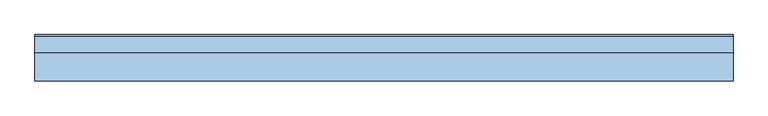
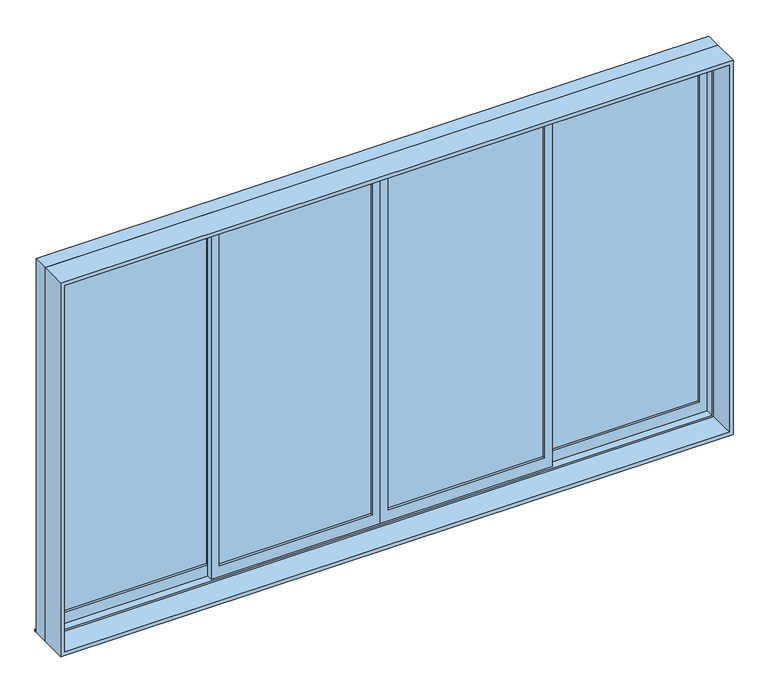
"""IFC4 building model written with IfcOpenShell, lengths in millimetres: window geometry, 窓-引違掃出4枚2溝-内付 : AW-2 w3400 h2000."""

from ifc_helpers import new_model, si_unit, frame, origin, origin_with_axes, place, context, project, spatial, polyline, outline, extrude, source, transform, mapped, element, save


def window_7edd47ae(model_context):
    return source(origin(), model_context, "Body", "SweptSolid", [
        extrude(outline(polyline([(0.0, 1700.0), (2000.0, 1700.0), (2000.0, -1700.0), (0.0, -1700.0), (0.0, 1700.0)]), holes=[polyline([(20.0, 1680.0), (20.0, -1680.0), (1980.0, -1680.0), (1980.0, 1680.0), (20.0, 1680.0)])]), frame((0.0, -115.0, 0.0), z_axis=(0.0, 1.0, 0.0), x_axis=(0.0, 0.0, 1.0)), (0.0, 0.0, 1.0), 135.0),
        extrude(outline(polyline([(0.0, -1700.0), (0.0, 1700.0), (2000.0, 1700.0), (2000.0, -1700.0), (0.0, -1700.0)]), holes=[polyline([(30.0, -1670.0), (1970.0, -1670.0), (1970.0, 1670.0), (30.0, 1670.0), (30.0, -1670.0)])]), frame((0.0, 20.0, 0.0), z_axis=(0.0, 1.0, 0.0), x_axis=(0.0, 0.0, 1.0)), (0.0, 0.0, 1.0), 80.0),
        extrude(outline(polyline([(1970.0, 870.0), (1970.0, 0.0), (30.0, 0.0), (30.0, 870.0), (1970.0, 870.0)]), holes=[polyline([(1930.0, 40.0), (1930.0, 830.0), (90.0, 830.0), (90.0, 40.0), (1930.0, 40.0)])]), frame((0.0, 30.0, 0.0), z_axis=(0.0, 1.0, 0.0), x_axis=(0.0, 0.0, 1.0)), (0.0, 0.0, 1.0), 30.0),
        extrude(outline(polyline([(-40.0, 42.5), (-815.0, 42.5), (-815.0, 47.5), (-40.0, 47.5), (-40.0, 42.5)])), frame((0.0, 0.0, 90.0), z_axis=(0.0, 0.0, 1.0), x_axis=(1.0, 0.0, 0.0)), (0.0, 0.0, 1.0), 1840.0),
        extrude(outline(polyline([(830.0, 42.5), (40.0, 42.5), (40.0, 47.5), (830.0, 47.5), (830.0, 42.5)])), frame((0.0, 0.0, 90.0), z_axis=(0.0, 0.0, 1.0), x_axis=(1.0, 0.0, 0.0)), (0.0, 0.0, 1.0), 1840.0),
        extrude(outline(polyline([(1970.0, -855.0), (30.0, -855.0), (30.0, 0.0), (1970.0, 0.0), (1970.0, -855.0)]), holes=[polyline([(1930.0, -815.0), (1930.0, -40.0), (90.0, -40.0), (90.0, -815.0), (1930.0, -815.0)])]), frame((0.0, 30.0, 0.0), z_axis=(0.0, 1.0, 0.0), x_axis=(0.0, 0.0, 1.0)), (0.0, 0.0, 1.0), 30.0),
        extrude(outline(polyline([(-855.0, 72.5), (-1630.0, 72.5), (-1630.0, 77.5), (-855.0, 77.5), (-855.0, 72.5)])), frame((0.0, 0.0, 90.0), z_axis=(0.0, 0.0, 1.0), x_axis=(1.0, 0.0, 0.0)), (0.0, 0.0, 1.0), 1840.0),
        extrude(outline(polyline([(1630.0, 72.5), (870.0, 72.5), (870.0, 77.5), (1630.0, 77.5), (1630.0, 72.5)])), frame((0.0, 0.0, 90.0), z_axis=(0.0, 0.0, 1.0), x_axis=(1.0, 0.0, 0.0)), (0.0, 0.0, 1.0), 1840.0),
        extrude(outline(polyline([(30.0, -1670.0), (30.0, -815.0), (1970.0, -815.0), (1970.0, -1670.0), (30.0, -1670.0)]), holes=[polyline([(90.0, -1630.0), (1930.0, -1630.0), (1930.0, -855.0), (90.0, -855.0), (90.0, -1630.0)])]), frame((0.0, 60.0, 0.0), z_axis=(0.0, 1.0, 0.0), x_axis=(0.0, 0.0, 1.0)), (0.0, 0.0, 1.0), 30.0),
        extrude(outline(polyline([(1970.0, 1670.0), (1970.0, 830.0), (30.0, 830.0), (30.0, 1670.0), (1970.0, 1670.0)]), holes=[polyline([(1930.0, 1630.0), (90.0, 1630.0), (90.0, 870.0), (1930.0, 870.0), (1930.0, 1630.0)])]), frame((0.0, 60.0, 0.0), z_axis=(0.0, 1.0, 0.0), x_axis=(0.0, 0.0, 1.0)), (0.0, 0.0, 1.0), 30.0),
        extrude(outline(polyline([(1700.0, 110.0), (1700.0, 100.0), (-1700.0, 100.0), (-1700.0, 110.0), (1700.0, 110.0)])), origin_with_axes(), (0.0, 0.0, 1.0), 10.0),
    ])


if __name__ == "__main__":
    model = new_model("IFC4")
    model_context = context("Model", 3, world=origin())
    ifc_project = project(units=[si_unit("LENGTHUNIT", "METRE", prefix="MILLI")], contexts=[model_context])
    site = spatial("IfcSite", under=ifc_project)
    building = spatial("IfcBuilding", under=site)
    placement = place(None, origin())
    window_shape = window_7edd47ae(model_context)
    element("IfcWindow", 1, ObjectType="窓-引違掃出4枚2溝-内付 : AW-2 w3400 h2000", at=placement, inside=building, context=model_context, shape_type="MappedRepresentation", body=[
        mapped(window_shape, transform((0.0, 0.0, 0.0), x_axis=(1.0, 0.0, 0.0), y_axis=(0.0, 1.0, 0.0), z_axis=(0.0, 0.0, 1.0))),
    ])
    save(model, "model.ifc")
